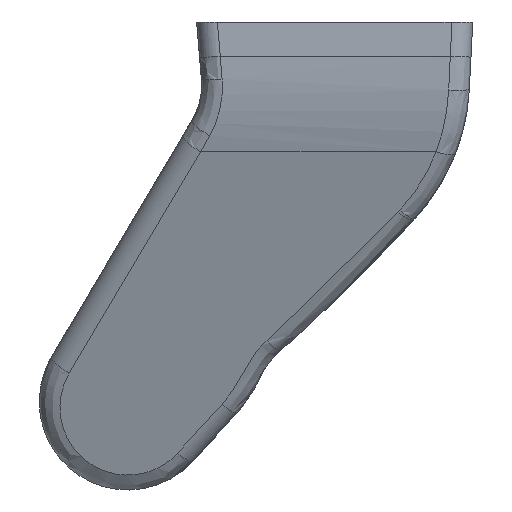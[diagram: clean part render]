
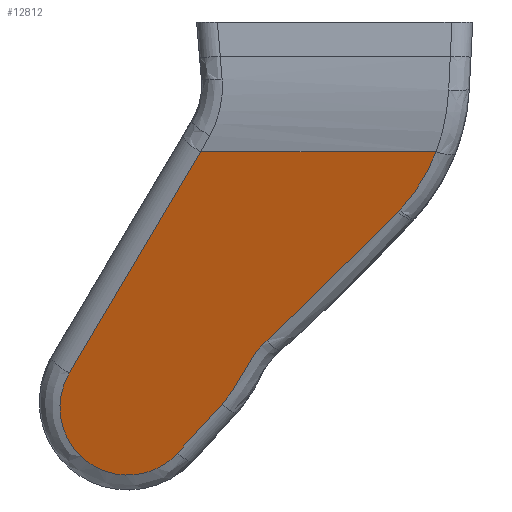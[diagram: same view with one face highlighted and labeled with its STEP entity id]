
A CAD part, left-side view. The second image highlights one B-rep face of the part: STEP entity #12812.
In plain terms, the highlighted planar face has unit normal (-0.961, 0, -0.277).
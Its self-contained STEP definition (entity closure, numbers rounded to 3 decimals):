
#11928 = EDGE_LOOP ( 'NONE', ( #12373, #12374, #12375, #12376, #12377, #12378, #12379, #12380 ) ) ;
#12129 = VERTEX_POINT ( 'NONE', #19952 ) ;
#12138 = VERTEX_POINT ( 'NONE', #19961 ) ;
#12139 = VERTEX_POINT ( 'NONE', #19962 ) ;
#12142 = VERTEX_POINT ( 'NONE', #19965 ) ;
#12143 = VERTEX_POINT ( 'NONE', #19966 ) ;
#12144 = VERTEX_POINT ( 'NONE', #19967 ) ;
#12145 = VERTEX_POINT ( 'NONE', #19968 ) ;
#12146 = VERTEX_POINT ( 'NONE', #19969 ) ;
#12373 = ORIENTED_EDGE ( 'NONE', *, *, #12641, .F. ) ;
#12374 = ORIENTED_EDGE ( 'NONE', *, *, #12644, .T. ) ;
#12375 = ORIENTED_EDGE ( 'NONE', *, *, #12645, .T. ) ;
#12376 = ORIENTED_EDGE ( 'NONE', *, *, #12646, .T. ) ;
#12377 = ORIENTED_EDGE ( 'NONE', *, *, #12647, .T. ) ;
#12378 = ORIENTED_EDGE ( 'NONE', *, *, #12648, .T. ) ;
#12379 = ORIENTED_EDGE ( 'NONE', *, *, #12649, .T. ) ;
#12380 = ORIENTED_EDGE ( 'NONE', *, *, #12650, .T. ) ;
#12641 = EDGE_CURVE ( 'NONE', #12138, #12139, #20398, .T. ) ;
#12644 = EDGE_CURVE ( 'NONE', #12138, #12129, #20410, .T. ) ;
#12645 = EDGE_CURVE ( 'NONE', #12129, #12142, #21376, .T. ) ;
#12646 = EDGE_CURVE ( 'NONE', #12142, #12143, #20418, .T. ) ;
#12647 = EDGE_CURVE ( 'NONE', #12143, #12144, #19024, .T. ) ;
#12648 = EDGE_CURVE ( 'NONE', #12144, #12145, #21377, .T. ) ;
#12649 = EDGE_CURVE ( 'NONE', #12145, #12146, #20436, .T. ) ;
#12650 = EDGE_CURVE ( 'NONE', #12146, #12139, #21378, .T. ) ;
#12812 = ADVANCED_FACE ( 'NONE', ( #21734 ), #21735, .T. ) ;
#18907 = VECTOR ( 'NONE', #20400, 1000. ) ;
#18909 = VECTOR ( 'NONE', #20412, 1000. ) ;
#18911 = VECTOR ( 'NONE', #20420, 1000. ) ;
#18912 = VECTOR ( 'NONE', #20438, 1000. ) ;
#19024 = B_SPLINE_CURVE_WITH_KNOTS ( 'NONE', 3,
 ( #20413, #20414, #20422, #20423, #20424, #20425, #20426, #20427, #20428, #20429, #20430, #20431 ),
 .UNSPECIFIED., .F., .F.,
 ( 4, 2, 2, 2, 2, 4 ),
 ( 0., 0.003, 0.006, 0.009, 0.01, 0.012 ),
 .UNSPECIFIED. ) ;
#19952 = CARTESIAN_POINT ( 'NONE',  ( -920.551, 515.986, -5.659 ) ) ;
#19961 = CARTESIAN_POINT ( 'NONE',  ( -929.788, 496.957, 26.381 ) ) ;
#19962 = CARTESIAN_POINT ( 'NONE',  ( -929.788, 462.844, 26.381 ) ) ;
#19965 = CARTESIAN_POINT ( 'NONE',  ( -917.201, 500.332, -17.281 ) ) ;
#19966 = CARTESIAN_POINT ( 'NONE',  ( -919.233, 493.875, -10.23 ) ) ;
#19967 = CARTESIAN_POINT ( 'NONE',  ( -921.901, 487.36, -0.977 ) ) ;
#19968 = CARTESIAN_POINT ( 'NONE',  ( -927.271, 468.343, 17.651 ) ) ;
#19969 = CARTESIAN_POINT ( 'NONE',  ( -927.347, 468.103, 17.913 ) ) ;
#20398 = LINE ( 'NONE', #20399, #18907 ) ;
#20399 = CARTESIAN_POINT ( 'NONE',  ( -929.788, 520.36, 26.381 ) ) ;
#20400 = DIRECTION ( 'NONE',  ( 0., -1., 0. ) ) ;
#20406 = CARTESIAN_POINT ( 'NONE',  ( -920.551, 515.986, -5.659 ) ) ;
#20410 = LINE ( 'NONE', #20411, #18909 ) ;
#20411 = CARTESIAN_POINT ( 'NONE',  ( -926.997, 502.706, 16.701 ) ) ;
#20412 = DIRECTION ( 'NONE',  ( 0.241, 0.496, -0.835 ) ) ;
#20413 = CARTESIAN_POINT ( 'NONE',  ( -919.233, 493.875, -10.23 ) ) ;
#20414 = CARTESIAN_POINT ( 'NONE',  ( -919.438, 493.226, -9.522 ) ) ;
#20415 = CARTESIAN_POINT ( 'NONE',  ( -916.541, 524.247, -19.568 ) ) ;
#20416 = CARTESIAN_POINT ( 'NONE',  ( -913.761, 511.258, -29.212 ) ) ;
#20417 = CARTESIAN_POINT ( 'NONE',  ( -917.201, 500.332, -17.281 ) ) ;
#20418 = LINE ( 'NONE', #20419, #18911 ) ;
#20419 = CARTESIAN_POINT ( 'NONE',  ( -921.544, 486.536, -2.216 ) ) ;
#20420 = DIRECTION ( 'NONE',  ( -0.208, -0.661, 0.721 ) ) ;
#20421 = CARTESIAN_POINT ( 'NONE',  ( -921.901, 487.36, -0.977 ) ) ;
#20422 = CARTESIAN_POINT ( 'NONE',  ( -919.661, 492.683, -8.748 ) ) ;
#20423 = CARTESIAN_POINT ( 'NONE',  ( -920.122, 491.684, -7.148 ) ) ;
#20424 = CARTESIAN_POINT ( 'NONE',  ( -920.361, 491.232, -6.319 ) ) ;
#20425 = CARTESIAN_POINT ( 'NONE',  ( -920.837, 490.316, -4.668 ) ) ;
#20426 = CARTESIAN_POINT ( 'NONE',  ( -921.074, 489.853, -3.845 ) ) ;
#20427 = CARTESIAN_POINT ( 'NONE',  ( -921.406, 489.032, -2.694 ) ) ;
#20428 = CARTESIAN_POINT ( 'NONE',  ( -921.512, 488.736, -2.324 ) ) ;
#20429 = CARTESIAN_POINT ( 'NONE',  ( -921.715, 488.087, -1.622 ) ) ;
#20430 = CARTESIAN_POINT ( 'NONE',  ( -921.811, 487.732, -1.289 ) ) ;
#20431 = CARTESIAN_POINT ( 'NONE',  ( -921.901, 487.36, -0.977 ) ) ;
#20432 = CARTESIAN_POINT ( 'NONE',  ( -927.347, 468.103, 17.913 ) ) ;
#20433 = CARTESIAN_POINT ( 'NONE',  ( -923.181, 482.049, 3.464 ) ) ;
#20434 = CARTESIAN_POINT ( 'NONE',  ( -925.139, 475.116, 10.255 ) ) ;
#20435 = CARTESIAN_POINT ( 'NONE',  ( -927.271, 468.343, 17.651 ) ) ;
#20436 = LINE ( 'NONE', #20437, #18912 ) ;
#20437 = CARTESIAN_POINT ( 'NONE',  ( -921.544, 486.536, -2.216 ) ) ;
#20438 = DIRECTION ( 'NONE',  ( -0.208, -0.661, 0.721 ) ) ;
#20441 = CARTESIAN_POINT ( 'NONE',  ( -928.061, 465.833, 20.392 ) ) ;
#20442 = CARTESIAN_POINT ( 'NONE',  ( -928.884, 464.06, 23.247 ) ) ;
#20443 = CARTESIAN_POINT ( 'NONE',  ( -929.788, 462.844, 26.381 ) ) ;
#21376 =( BOUNDED_CURVE ( )  B_SPLINE_CURVE ( 3, ( #20406, #20415, #20416, #20417 ),
 .UNSPECIFIED., .F., .T. ) 
 B_SPLINE_CURVE_WITH_KNOTS ( ( 4, 4 ),
 ( 1.035, 3.971 ),
 .UNSPECIFIED. ) 
 CURVE ( )  GEOMETRIC_REPRESENTATION_ITEM ( )  RATIONAL_B_SPLINE_CURVE ( ( 1., 0.402, 0.402, 1. ) ) 
 REPRESENTATION_ITEM ( '' )  );
#21377 =( BOUNDED_CURVE ( )  B_SPLINE_CURVE ( 3, ( #20421, #20433, #20434, #20435 ),
 .UNSPECIFIED., .F., .T. ) 
 B_SPLINE_CURVE_WITH_KNOTS ( ( 4, 4 ),
 ( 3.876, 4.902 ),
 .UNSPECIFIED. ) 
 CURVE ( )  GEOMETRIC_REPRESENTATION_ITEM ( )  RATIONAL_B_SPLINE_CURVE ( ( 1., 0.914, 0.914, 1. ) ) 
 REPRESENTATION_ITEM ( '' )  );
#21378 =( BOUNDED_CURVE ( )  B_SPLINE_CURVE ( 3, ( #20432, #20441, #20442, #20443 ),
 .UNSPECIFIED., .F., .T. ) 
 B_SPLINE_CURVE_WITH_KNOTS ( ( 4, 4 ),
 ( 3.971, 4.342 ),
 .UNSPECIFIED. ) 
 CURVE ( )  GEOMETRIC_REPRESENTATION_ITEM ( )  RATIONAL_B_SPLINE_CURVE ( ( 1., 0.989, 0.989, 1. ) ) 
 REPRESENTATION_ITEM ( '' )  );
#21540 = AXIS2_PLACEMENT_3D ( 'NONE', #21732, #21737, #21738 ) ;
#21732 = CARTESIAN_POINT ( 'NONE',  ( -929.788, 520.36, 26.381 ) ) ;
#21734 = FACE_OUTER_BOUND ( 'NONE', #11928, .T. ) ;
#21735 = PLANE ( 'NONE',  #21540 ) ;
#21737 = DIRECTION ( 'NONE',  ( -0.961, 0., -0.277 ) ) ;
#21738 = DIRECTION ( 'NONE',  ( -0.277, 0., 0.961 ) ) ;
